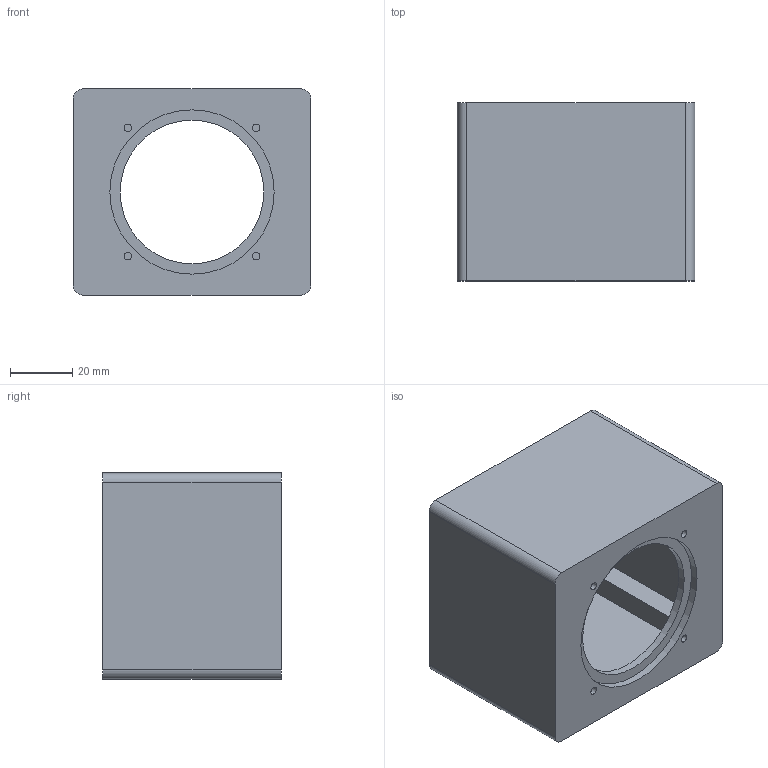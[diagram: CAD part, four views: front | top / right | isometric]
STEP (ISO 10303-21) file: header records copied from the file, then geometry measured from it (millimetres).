
FILE_DESCRIPTION(('Open CASCADE Model'),'2;1');
FILE_NAME('Open CASCADE Shape Model','2026-09-29T12:47:59',('Author'),( 'Open CASCADE'),'Open CASCADE STEP processor 7.9','Open CASCADE 7.9' ,'Unknown');
FILE_SCHEMA(('AUTOMOTIVE_DESIGN { 1 0 10303 214 1 1 1 1 }'));
Length unit declared in the file: millimetre
Products named in the file (1): Open CASCADE STEP translator 7.9 11
Bounding box: 76 x 57 x 66 mm (x, y, z)
Volume: 67318.2 mm3; surface area: 37411.6 mm2
Topology: 1 solids, 1 shells, 44 faces, 98 edges, 65 vertices
Faces by surface type: plane 29, cylinder 15
Full cylindrical faces by diameter (mm): 2.5 x8, 4 x1, 46 x1, 52.6 x1
Entity records: 2541 total; most frequent: CARTESIAN_POINT 524, DIRECTION 375, LINE 208, VECTOR 208, ORIENTED_EDGE 196, PCURVE 196, DEFINITIONAL_REPRESENTATION 196, EDGE_CURVE 98
